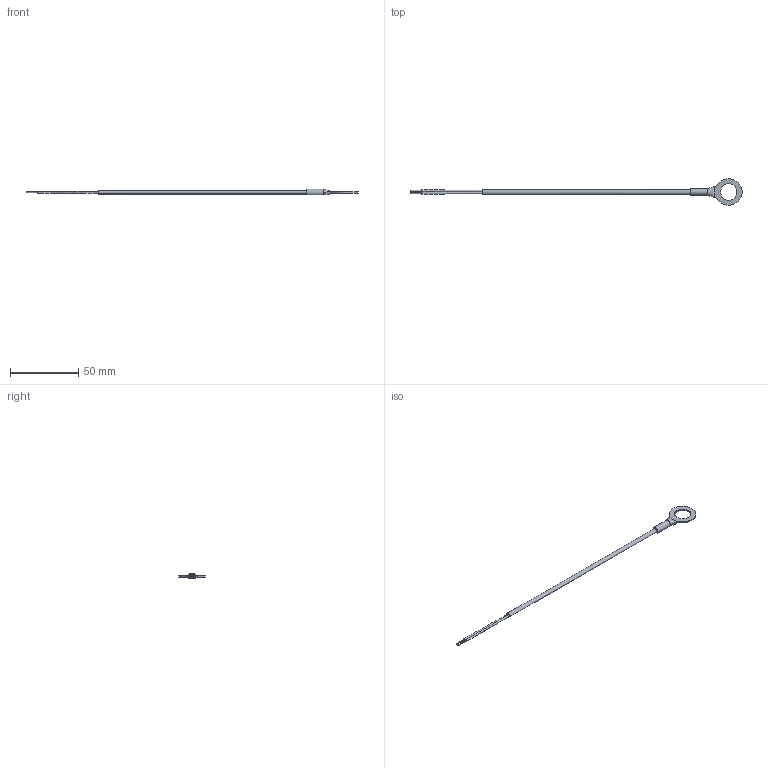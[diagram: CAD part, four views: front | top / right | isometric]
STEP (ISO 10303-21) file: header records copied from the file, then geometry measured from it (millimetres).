
FILE_DESCRIPTION(/* description */ (''),/* implementation_level */ '2;1');
FILE_NAME(/* name */ 'C:\Users\Justin\Documents\CAD Drawings\The Sensor Connection\3D\CHT\WS\CHT-WS-072-0012-JJ-N.ipt.step',/* time_stamp */ '2018-12-27T10:54:40-05:00',/* author */ ('JN'),/* organization */ (''),/* preprocessor_version */ 'ST-DEVELOPER v17.2',/* originating_system */ 'Autodesk Inventor 2019',/* authorisation */ '');
FILE_SCHEMA (('AUTOMOTIVE_DESIGN { 1 0 10303 214 3 1 1 }'));
Length unit declared in the file: inch
Products named in the file (1): CHT-WS-072-0012-JJ-N
Bounding box: 243.22 x 19.4 x 4.18 mm (x, y, z)
Volume: 1631.2 mm3; surface area: 2836 mm2
Topology: 4 solids, 4 shells, 29 faces, 60 edges, 40 vertices
Faces by surface type: plane 16, bspline 8, cylinder 5
Full cylindrical faces by diameter (mm): 0.762 x2, 12.001 x1
Entity records: 1063 total; most frequent: CARTESIAN_POINT 376, ORIENTED_EDGE 112, DIRECTION 112, EDGE_CURVE 56, AXIS2_PLACEMENT_3D 44, VERTEX_POINT 38, EDGE_LOOP 36, FACE_OUTER_BOUND 29
